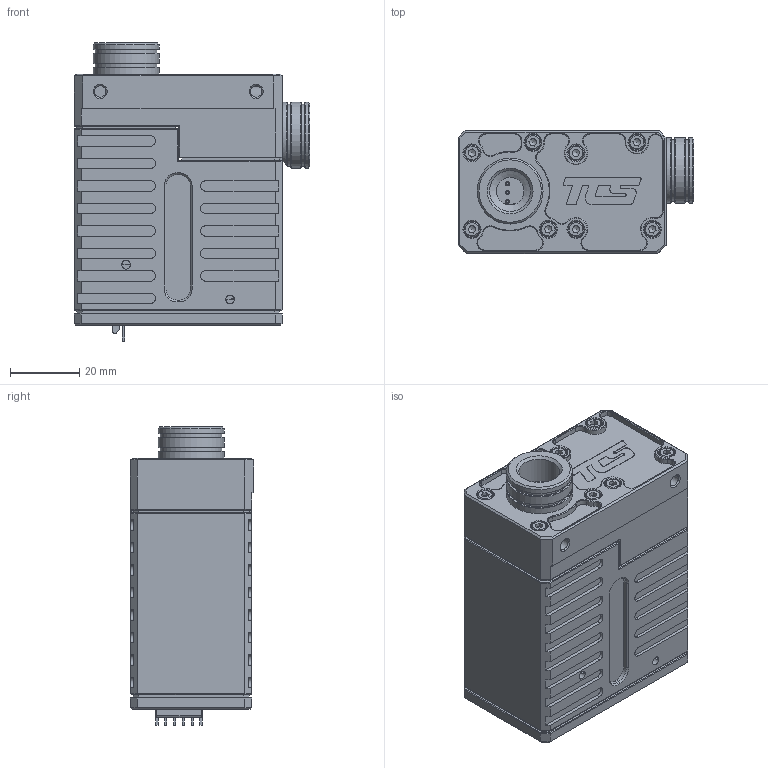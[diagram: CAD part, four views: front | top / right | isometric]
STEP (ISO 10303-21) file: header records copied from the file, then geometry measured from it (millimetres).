
FILE_DESCRIPTION (( 'STEP AP214' ), '1' );
FILE_NAME ('MSSC-90 6PIN REV A.STEP', '2025-05-12T12:37:42', ( '' ), ( '' ), 'SwSTEP 2.0', 'SolidWorks 2023', '' );
FILE_SCHEMA (( 'AUTOMOTIVE_DESIGN' ));
Length unit declared in the file: millimetre
Products named in the file (1): MSSC-90 6PIN REV A
Bounding box: 68 x 35.5 x 86.03 mm (x, y, z)
Surface area: 28835.7 mm2 (no closed solid volume)
Topology: 0 solids, 22 shells, 699 faces, 1924 edges, 1228 vertices
Faces by surface type: plane 438, cylinder 147, cone 113, bspline 1
Full cylindrical faces by diameter (mm): 2.5 x2, 3.3 x2, 4.4 x12, 4.8 x12, 8 x1, 11.8 x2, 17.8 x4, 19 x5
Entity records: 22159 total; most frequent: CARTESIAN_POINT 4766, DIRECTION 3667, ORIENTED_EDGE 3314, EDGE_CURVE 1797, LINE 1281, VECTOR 1281, VERTEX_POINT 1196, AXIS2_PLACEMENT_3D 1193
